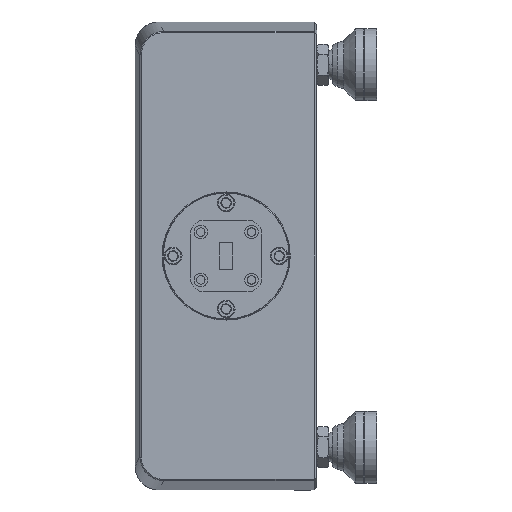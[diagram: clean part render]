
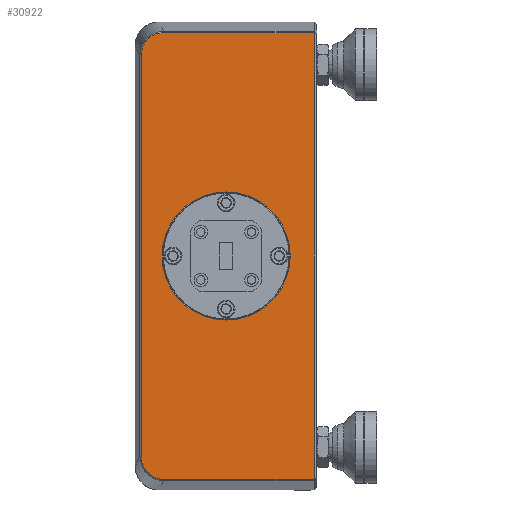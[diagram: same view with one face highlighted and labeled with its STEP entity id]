
A CAD part, left-side view. The second image highlights one B-rep face of the part: STEP entity #30922.
In plain terms, the highlighted planar face has unit normal (-1, 0, 0).
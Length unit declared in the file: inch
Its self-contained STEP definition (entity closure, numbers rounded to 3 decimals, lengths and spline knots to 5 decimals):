
#992 = VECTOR ( 'NONE', #30925, 39.37008 ) ;
#1142 = VERTEX_POINT ( 'NONE', #26567 ) ;
#1494 = EDGE_CURVE ( 'NONE', #62552, #39765, #41710, .T. ) ;
#1675 = DIRECTION ( 'NONE',  ( -1., 0., 0. ) ) ;
#2293 = CARTESIAN_POINT ( 'NONE',  ( -2.75, 8.97989, 2.3356 ) ) ;
#2854 = CARTESIAN_POINT ( 'NONE',  ( -2.75, 8.32758, 0. ) ) ;
#3258 = DIRECTION ( 'NONE',  ( 0., 0., -1. ) ) ;
#4396 = CARTESIAN_POINT ( 'NONE',  ( -2.75, 9.1247, 2.28822 ) ) ;
#5474 = CARTESIAN_POINT ( 'NONE',  ( -2.75, 9.21525, 0. ) ) ;
#7147 = CARTESIAN_POINT ( 'NONE',  ( -2.75, 8.32758, 2.3356 ) ) ;
#7250 = DIRECTION ( 'NONE',  ( 0., -1., 0. ) ) ;
#7679 = EDGE_LOOP ( 'NONE', ( #28580, #73769 ) ) ;
#7710 = EDGE_CURVE ( 'NONE', #25030, #77674, #12414, .T. ) ;
#7866 = VERTEX_POINT ( 'NONE', #8738 ) ;
#8738 = CARTESIAN_POINT ( 'NONE',  ( -2.75, 8.97989, -2.3356 ) ) ;
#8910 = CARTESIAN_POINT ( 'NONE',  ( -2.75, 8.32758, 0. ) ) ;
#9267 = CARTESIAN_POINT ( 'NONE',  ( -2.75, 9.16818, 2.24446 ) ) ;
#9716 = FACE_OUTER_BOUND ( 'NONE', #34578, .T. ) ;
#11380 = VERTEX_POINT ( 'NONE', #75715 ) ;
#12181 = EDGE_CURVE ( 'NONE', #11380, #78659, #52069, .T. ) ;
#12414 = LINE ( 'NONE', #7147, #992 ) ;
#12830 = CIRCLE ( 'NONE', #79531, 0.67 ) ;
#16696 = CARTESIAN_POINT ( 'NONE',  ( -2.75, 9.18562, -2.21814 ) ) ;
#20017 = DIRECTION ( 'NONE',  ( 0., 0., 1. ) ) ;
#21710 = CARTESIAN_POINT ( 'NONE',  ( -2.75, 9.20913, 2.16087 ) ) ;
#21768 = DIRECTION ( 'NONE',  ( 1., 0., 0. ) ) ;
#22094 = CARTESIAN_POINT ( 'NONE',  ( -2.75, 8.97989, 2.3356 ) ) ;
#24102 = CARTESIAN_POINT ( 'NONE',  ( -2.75, 9.21525, 2.12984 ) ) ;
#24317 = CARTESIAN_POINT ( 'NONE',  ( -2.75, 9.21525, -2.12976 ) ) ;
#25030 = VERTEX_POINT ( 'NONE', #48116 ) ;
#25569 = EDGE_CURVE ( 'NONE', #78659, #11380, #12830, .T. ) ;
#25769 = ORIENTED_EDGE ( 'NONE', *, *, #36323, .T. ) ;
#26567 = CARTESIAN_POINT ( 'NONE',  ( -2.75, 7.40758, -2.3356 ) ) ;
#27785 = CARTESIAN_POINT ( 'NONE',  ( -2.75, 9.18562, 2.21814 ) ) ;
#28580 = ORIENTED_EDGE ( 'NONE', *, *, #25569, .F. ) ;
#30381 = CARTESIAN_POINT ( 'NONE',  ( -2.75, 9.04167, -2.32944 ) ) ;
#30922 = ADVANCED_FACE ( 'NONE', ( #53167, #9716 ), #64047, .F. ) ;
#30925 = DIRECTION ( 'NONE',  ( 0., 1., 0. ) ) ;
#31227 = ORIENTED_EDGE ( 'NONE', *, *, #7710, .T. ) ;
#34578 = EDGE_LOOP ( 'NONE', ( #25769, #49924, #31227, #35313, #59885, #77083 ) ) ;
#35313 = ORIENTED_EDGE ( 'NONE', *, *, #40259, .T. ) ;
#36323 = EDGE_CURVE ( 'NONE', #7866, #1142, #63156, .T. ) ;
#36427 = CARTESIAN_POINT ( 'NONE',  ( -2.75, 9.20912, -2.16087 ) ) ;
#37558 = CARTESIAN_POINT ( 'NONE',  ( -2.75, 9.21525, 2.09869 ) ) ;
#38179 = CARTESIAN_POINT ( 'NONE',  ( -2.75, 8.32758, 0. ) ) ;
#39765 = VERTEX_POINT ( 'NONE', #74095 ) ;
#40259 = EDGE_CURVE ( 'NONE', #77674, #62552, #62080, .T. ) ;
#40906 = DIRECTION ( 'NONE',  ( 0., 0., -1. ) ) ;
#41038 = CARTESIAN_POINT ( 'NONE',  ( -2.75, 9.04166, 2.32944 ) ) ;
#41710 = LINE ( 'NONE', #5474, #71531 ) ;
#42246 = CARTESIAN_POINT ( 'NONE',  ( -2.75, 9.21525, 2.09869 ) ) ;
#42465 = CARTESIAN_POINT ( 'NONE',  ( -2.75, 9.01084, -2.33561 ) ) ;
#46583 = CARTESIAN_POINT ( 'NONE',  ( -2.75, 7.40758, 0. ) ) ;
#47070 = CARTESIAN_POINT ( 'NONE',  ( -2.75, 9.01076, 2.33561 ) ) ;
#48116 = CARTESIAN_POINT ( 'NONE',  ( -2.75, 7.40758, 2.3356 ) ) ;
#48505 = CARTESIAN_POINT ( 'NONE',  ( -2.75, 9.1247, -2.28822 ) ) ;
#48672 = B_SPLINE_CURVE_WITH_KNOTS ( 'NONE', 3,
 ( #60532, #24317, #36427, #16696, #60935, #48505, #79371, #30381, #42465, #66960 ),
 .UNSPECIFIED., .F., .F.,
 ( 4, 2, 2, 2, 4 ),
 ( 0., 0.25, 0.5, 0.75, 1. ),
 .UNSPECIFIED. ) ;
#48922 = EDGE_CURVE ( 'NONE', #39765, #7866, #48672, .T. ) ;
#49924 = ORIENTED_EDGE ( 'NONE', *, *, #72433, .T. ) ;
#50389 = DIRECTION ( 'NONE',  ( 0., 0., 1. ) ) ;
#50708 = CARTESIAN_POINT ( 'NONE',  ( -2.75, 8.32758, -2.3356 ) ) ;
#52069 = CIRCLE ( 'NONE', #62354, 0.67 ) ;
#52114 = CARTESIAN_POINT ( 'NONE',  ( -2.75, 8.32758, 0.67 ) ) ;
#52631 = LINE ( 'NONE', #46583, #75399 ) ;
#53167 = FACE_BOUND ( 'NONE', #7679, .T. ) ;
#54226 = DIRECTION ( 'NONE',  ( 0., 0., 1. ) ) ;
#59885 = ORIENTED_EDGE ( 'NONE', *, *, #1494, .T. ) ;
#59931 = AXIS2_PLACEMENT_3D ( 'NONE', #2854, #21768, #3258 ) ;
#60532 = CARTESIAN_POINT ( 'NONE',  ( -2.75, 9.21525, -2.09869 ) ) ;
#60935 = CARTESIAN_POINT ( 'NONE',  ( -2.75, 9.16817, -2.24446 ) ) ;
#62080 = B_SPLINE_CURVE_WITH_KNOTS ( 'NONE', 3,
 ( #22094, #47070, #41038, #65551, #4396, #9267, #27785, #21710, #24102, #42246 ),
 .UNSPECIFIED., .F., .F.,
 ( 4, 2, 2, 2, 4 ),
 ( 0., 0.25, 0.5, 0.75, 1. ),
 .UNSPECIFIED. ) ;
#62354 = AXIS2_PLACEMENT_3D ( 'NONE', #8910, #1675, #50389 ) ;
#62552 = VERTEX_POINT ( 'NONE', #37558 ) ;
#62664 = DIRECTION ( 'NONE',  ( -1., 0., 0. ) ) ;
#63156 = LINE ( 'NONE', #50708, #76744 ) ;
#64047 = PLANE ( 'NONE',  #59931 ) ;
#65551 = CARTESIAN_POINT ( 'NONE',  ( -2.75, 9.09856, 2.30578 ) ) ;
#66960 = CARTESIAN_POINT ( 'NONE',  ( -2.75, 8.97989, -2.3356 ) ) ;
#71531 = VECTOR ( 'NONE', #40906, 39.37008 ) ;
#72433 = EDGE_CURVE ( 'NONE', #1142, #25030, #52631, .T. ) ;
#73769 = ORIENTED_EDGE ( 'NONE', *, *, #12181, .F. ) ;
#74095 = CARTESIAN_POINT ( 'NONE',  ( -2.75, 9.21525, -2.09869 ) ) ;
#75399 = VECTOR ( 'NONE', #54226, 39.37008 ) ;
#75715 = CARTESIAN_POINT ( 'NONE',  ( -2.75, 8.32758, -0.67 ) ) ;
#76744 = VECTOR ( 'NONE', #7250, 39.37008 ) ;
#77083 = ORIENTED_EDGE ( 'NONE', *, *, #48922, .T. ) ;
#77674 = VERTEX_POINT ( 'NONE', #2293 ) ;
#78659 = VERTEX_POINT ( 'NONE', #52114 ) ;
#79371 = CARTESIAN_POINT ( 'NONE',  ( -2.75, 9.09856, -2.30578 ) ) ;
#79531 = AXIS2_PLACEMENT_3D ( 'NONE', #38179, #62664, #20017 ) ;
